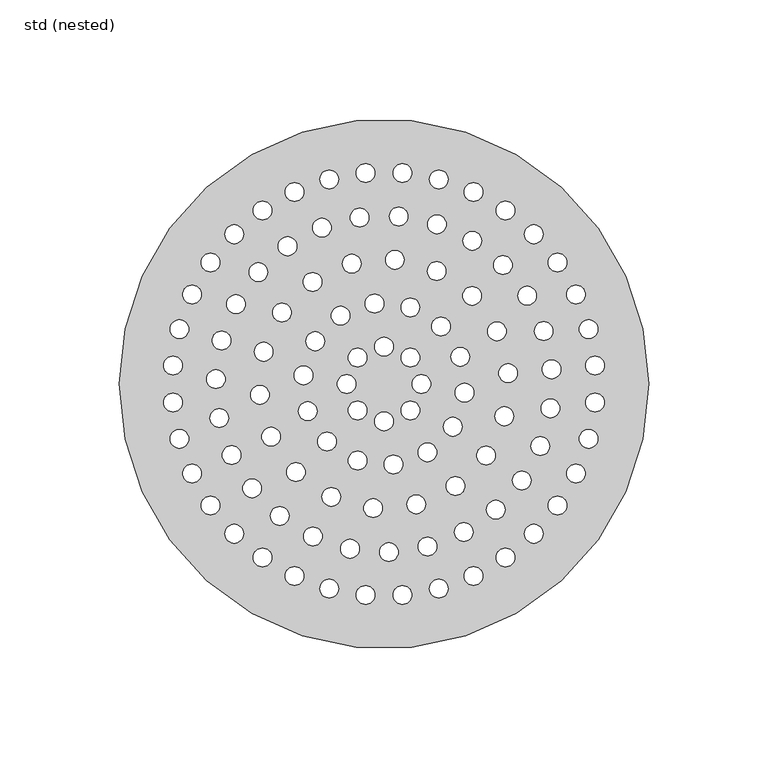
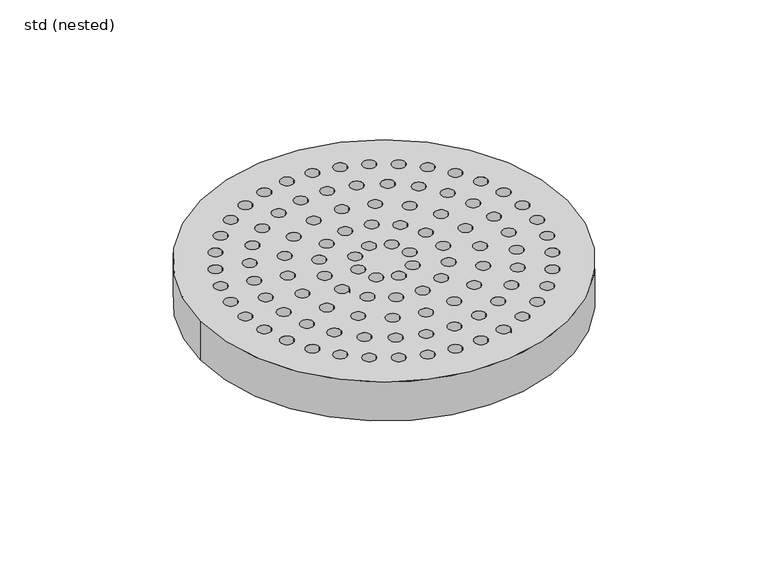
"""IFC4 building model written with IfcOpenShell, lengths in millimetres: sanitary terminal geometry, ZZZ_do not use_PF_ST_UN_round grating for vinyl top_ACO : std (nested)."""

import ifcopenshell
import ifcopenshell.guid

model = None  # the IFC model being written
_history = None  # IfcOwnerHistory: only IFC2X3 demands one
_inside = {}  # id of a spatial element -> (the spatial element, [elements in it])
_under = {}  # id of a project, library or spatial element -> (it, [spatial elements below it])
_declared = {}  # id of a project -> (the project, [libraries it declares])
_typed = {}  # id of a type object -> (the type object, [elements of that type])
_made_of = {}  # id of a material, layer set ... -> (it, [elements and type objects made of it])


def new_model(schema):
    """Start an empty IFC model of exactly this schema.

    Asked for "IFC4X3", IfcOpenShell would pick the latest addendum, in which some entities
    have other attributes; the version numbers below select the first issue.
    IFC2X3 requires an IfcOwnerHistory on every rooted entity: one is made here for all.
    """
    global model, _history
    if schema == "IFC4X3":
        model = ifcopenshell.file(schema_version=(4, 3, 0, 0))
    else:
        model = ifcopenshell.file(schema=schema)
    _inside.clear()
    _under.clear()
    _declared.clear()
    _typed.clear()
    _made_of.clear()
    _history = None
    if model.schema == "IFC2X3":
        org = make("IfcOrganization", Name="unknown")
        user = make(
            "IfcPersonAndOrganization",
            ThePerson=make("IfcPerson", FamilyName="unknown"),
            TheOrganization=org,
        )
        app = make(
            "IfcApplication",
            ApplicationDeveloper=org,
            Version="unknown",
            ApplicationFullName="unknown",
            ApplicationIdentifier="unknown",
        )
        _history = make(
            "IfcOwnerHistory",
            OwningUser=user,
            OwningApplication=app,
            ChangeAction="ADDED",
            CreationDate=0,
        )
    return model


def make(cls, **values):
    """One entity of the class cls with the attributes given. An attribute that is None is left unset."""
    return model.create_entity(
        cls, **{name: value for name, value in values.items() if value is not None}
    )


def rooted(cls, **values):
    """An entity with a GlobalId (a new one), such as an element, a storey or a relation."""
    return make(cls, GlobalId=ifcopenshell.guid.new(), OwnerHistory=_history, **values)


def si_unit(unit_type, name, prefix=None):
    """IfcSIUnit, for example si_unit("LENGTHUNIT", "METRE", prefix="MILLI")."""
    return make("IfcSIUnit", UnitType=unit_type, Prefix=prefix, Name=name)


def assignment(units):
    """IfcUnitAssignment: the units of a project."""
    return None if units is None else make("IfcUnitAssignment", Units=units)


def point(xyz):
    """IfcCartesianPoint."""
    return None if xyz is None else make("IfcCartesianPoint", Coordinates=xyz)


def direction(xyz):
    """IfcDirection."""
    return None if xyz is None else make("IfcDirection", DirectionRatios=xyz)


def frame(location, z_axis=None, x_axis=None):
    """IfcAxis2Placement3D, a coordinate frame: its origin and axes. An axis left out is left unset."""
    return make(
        "IfcAxis2Placement3D",
        Location=point(location),
        Axis=direction(z_axis),
        RefDirection=direction(x_axis),
    )


def frame_2d(location, x_axis=None):
    """IfcAxis2Placement2D, a coordinate frame in the plane: its origin and x axis."""
    return make(
        "IfcAxis2Placement2D", Location=point(location), RefDirection=direction(x_axis)
    )


def origin():
    """The frame at (0, 0, 0) with its axes left unset."""
    return frame((0.0, 0.0, 0.0))


def origin_2d():
    """The frame at (0, 0) in the plane with its x axis left unset."""
    return frame_2d((0.0, 0.0))


def place(relative_to, where):
    """IfcLocalPlacement: puts the frame where relative to a parent placement (None: the world)."""
    return make(
        "IfcLocalPlacement", PlacementRelTo=relative_to, RelativePlacement=where
    )


def context(
    kind, dimensions, precision=None, world=None, true_north=None, identifier=None
):
    """IfcGeometricRepresentationContext, for example the 3D "Model" context."""
    return make(
        "IfcGeometricRepresentationContext",
        ContextIdentifier=identifier,
        ContextType=kind,
        CoordinateSpaceDimension=dimensions,
        Precision=precision,
        WorldCoordinateSystem=world,
        TrueNorth=true_north,
    )


def project(units=None, contexts=None):
    """IfcProject with its units and contexts."""
    return rooted(
        "IfcProject",
        Name="project",
        RepresentationContexts=contexts,
        UnitsInContext=assignment(units),
    )


def spatial(cls, under=None, at=None, **own):
    """A site, building, storey or space (cls), placed at a placement, below another one or the project."""
    s = rooted(cls, ObjectPlacement=at, **own)
    if under is not None:
        _under.setdefault(under.id(), (under, []))[1].append(s)
    return s


def circle_curve(where, radius):
    """IfcCircle in the frame where."""
    return make("IfcCircle", Position=where, Radius=radius)


def trimmed(basis, trim1, trim2, sense, master):
    """IfcTrimmedCurve: the piece of a basis curve between two trims."""
    return make(
        "IfcTrimmedCurve",
        BasisCurve=basis,
        Trim1=trim1,
        Trim2=trim2,
        SenseAgreement=sense,
        MasterRepresentation=master,
    )


def segment(curve, same_sense, transition):
    """IfcCompositeCurveSegment."""
    return make(
        "IfcCompositeCurveSegment",
        Transition=transition,
        SameSense=same_sense,
        ParentCurve=curve,
    )


def composite_curve(segments, self_intersect=None):
    """IfcCompositeCurve: segments joined end to end."""
    return make("IfcCompositeCurve", Segments=segments, SelfIntersect=self_intersect)


def outline(outer, holes=None, kind="AREA"):
    """IfcArbitraryClosedProfileDef: a profile drawn as a closed curve; with holes, ...WithVoids."""
    if holes is None:
        return make("IfcArbitraryClosedProfileDef", ProfileType=kind, OuterCurve=outer)
    return make(
        "IfcArbitraryProfileDefWithVoids",
        ProfileType=kind,
        OuterCurve=outer,
        InnerCurves=holes,
    )


def extrude(swept, where, along, depth):
    """IfcExtrudedAreaSolid: the profile swept, set in the frame where, extruded along a direction by depth."""
    return make(
        "IfcExtrudedAreaSolid",
        SweptArea=swept,
        Position=where,
        ExtrudedDirection=direction(along),
        Depth=depth,
    )


def shape(context_of_items, identifier, shape_type, items):
    """IfcShapeRepresentation: the items that make up one representation, for example the "Body"."""
    return make(
        "IfcShapeRepresentation",
        ContextOfItems=context_of_items,
        RepresentationIdentifier=identifier,
        RepresentationType=shape_type,
        Items=items,
    )


def source(mapping_origin, context_of_items, identifier, shape_type, items):
    """IfcRepresentationMap: a shape defined once, which mapped items show again and again."""
    return make(
        "IfcRepresentationMap",
        MappingOrigin=mapping_origin,
        MappedRepresentation=shape(context_of_items, identifier, shape_type, items),
    )


def transform(
    local_origin,
    x_axis=None,
    y_axis=None,
    z_axis=None,
    scale=None,
    scale2=None,
    scale3=None,
    uniform=True,
):
    """IfcCartesianTransformationOperator3D, or its non-uniform kind. x_axis, y_axis, z_axis: its Axis1, 2, 3."""
    if uniform:
        return make(
            "IfcCartesianTransformationOperator3D",
            Axis1=direction(x_axis),
            Axis2=direction(y_axis),
            LocalOrigin=point(local_origin),
            Scale=scale,
            Axis3=direction(z_axis),
        )
    return make(
        "IfcCartesianTransformationOperator3DnonUniform",
        Axis1=direction(x_axis),
        Axis2=direction(y_axis),
        LocalOrigin=point(local_origin),
        Scale=scale,
        Axis3=direction(z_axis),
        Scale2=scale2,
        Scale3=scale3,
    )


def mapped(mapping_source, mapping_target):
    """IfcMappedItem: shows the shape of a source again, moved by a transform."""
    return make(
        "IfcMappedItem", MappingSource=mapping_source, MappingTarget=mapping_target
    )


def made_of(thing, what):
    """Note that an element or type object is made of a material, layer set ...; save() writes the relation."""
    if what is not None:
        _made_of.setdefault(what.id(), (what, []))[1].append(thing)
    return thing


def element(
    cls,
    number,
    at=None,
    inside=None,
    cuts=None,
    type_object=None,
    material=None,
    context=None,
    identifier="Body",
    shape_type=None,
    held_by="IfcProductDefinitionShape",
    body=None,
    shapes=None,
    **own,
):
    """One element of the class cls, such as IfcWall. Its Tag is "e" and its number.

    at: its placement. inside: the storey or other place that contains it. cuts: it is an
    opening in that element (IfcRelVoidsElement). A single representation is given by context,
    identifier, shape_type and body (its items); several are given by shapes. held_by: the class
    of the entity that holds the representations. save() writes the other relations.
    """
    e = rooted(cls, Tag="e%d" % number, ObjectPlacement=at, **own)
    if body is not None:
        shapes = [shape(context, identifier, shape_type, body)]
    if shapes is not None:
        e.Representation = make(held_by, Representations=shapes)
    if inside is not None:
        _inside.setdefault(inside.id(), (inside, []))[1].append(e)
    if cuts is not None:
        rooted(
            "IfcRelVoidsElement", RelatingBuildingElement=cuts, RelatedOpeningElement=e
        )
    if type_object is not None:
        _typed.setdefault(type_object.id(), (type_object, []))[1].append(e)
    return made_of(e, material)


def aggregate(whole, parts):
    """IfcRelAggregates: a whole, such as a stair, and the parts it consists of."""
    return rooted("IfcRelAggregates", RelatingObject=whole, RelatedObjects=parts)


def save(model, path):
    """Write the relations noted so far, then the file.

    IfcRelAggregates (storeys below a building ...), IfcRelContainedInSpatialStructure (elements
    in a storey), IfcRelDefinesByType, IfcRelAssociatesMaterial and IfcRelDeclares: one each for
    every whole, place, type object, material and project.
    """
    for whole, parts in _under.values():
        aggregate(whole, parts)
    for where, things in _inside.values():
        rooted(
            "IfcRelContainedInSpatialStructure",
            RelatedElements=things,
            RelatingStructure=where,
        )
    for kind, things in _typed.values():
        rooted("IfcRelDefinesByType", RelatedObjects=things, RelatingType=kind)
    for what, things in _made_of.values():
        rooted("IfcRelAssociatesMaterial", RelatedObjects=things, RelatingMaterial=what)
    for by, libraries in _declared.values():
        rooted("IfcRelDeclares", RelatingContext=by, RelatedDefinitions=libraries)
    model.write(path)


def std_nested_6499384f(model_context):
    return source(origin(), model_context, "Body", "SweptSolid", [
        extrude(outline(composite_curve([segment(trimmed(circle_curve(origin_2d(), 111.0), [point((-111.0, 0.0))], [point((111.0, 0.0))], False, "CARTESIAN"), True, "CONTINUOUS"), segment(trimmed(circle_curve(origin_2d(), 111.0), [point((111.0, 0.0))], [point((-111.0, 0.0))], False, "CARTESIAN"), True, "CONTINUOUS")], self_intersect=False), holes=[composite_curve([segment(trimmed(circle_curve(frame_2d((22.9831312, 85.7742134)), 3.9176471), [point((26.9007783, 85.7742134))], [point((19.0654841, 85.7742134))], True, "CARTESIAN"), True, "CONTINUOUS"), segment(trimmed(circle_curve(frame_2d((22.9831312, 85.7742134)), 3.9176471), [point((19.0654841, 85.7742134))], [point((26.9007783, 85.7742134))], True, "CARTESIAN"), True, "CONTINUOUS")], self_intersect=False), composite_curve([segment(trimmed(circle_curve(frame_2d((37.5285016, 80.4801315)), 3.9176471), [point((41.4461487, 80.4801315))], [point((33.6108546, 80.4801315))], True, "CARTESIAN"), True, "CONTINUOUS"), segment(trimmed(circle_curve(frame_2d((37.5285016, 80.4801315)), 3.9176471), [point((33.6108546, 80.4801315))], [point((41.4461487, 80.4801315))], True, "CARTESIAN"), True, "CONTINUOUS")], self_intersect=False), composite_curve([segment(trimmed(circle_curve(frame_2d((50.9335875, 72.7407015)), 3.9176471), [point((54.8512346, 72.7407015))], [point((47.0159405, 72.7407015))], True, "CARTESIAN"), True, "CONTINUOUS"), segment(trimmed(circle_curve(frame_2d((50.9335875, 72.7407015)), 3.9176471), [point((47.0159405, 72.7407015))], [point((54.8512346, 72.7407015))], True, "CARTESIAN"), True, "CONTINUOUS")], self_intersect=False), composite_curve([segment(trimmed(circle_curve(frame_2d((62.7910822, 62.7910822)), 3.9176471), [point((66.7087292, 62.7910822))], [point((58.8734351, 62.7910822))], True, "CARTESIAN"), True, "CONTINUOUS"), segment(trimmed(circle_curve(frame_2d((62.7910822, 62.7910822)), 3.9176471), [point((58.8734351, 62.7910822))], [point((66.7087292, 62.7910822))], True, "CARTESIAN"), True, "CONTINUOUS")], self_intersect=False), composite_curve([segment(trimmed(circle_curve(frame_2d((72.7407015, 50.9335875)), 3.9176471), [point((76.6583486, 50.9335875))], [point((68.8230545, 50.9335875))], True, "CARTESIAN"), True, "CONTINUOUS"), segment(trimmed(circle_curve(frame_2d((72.7407015, 50.9335875)), 3.9176471), [point((68.8230545, 50.9335875))], [point((76.6583486, 50.9335875))], True, "CARTESIAN"), True, "CONTINUOUS")], self_intersect=False), composite_curve([segment(trimmed(circle_curve(frame_2d((80.4801315, 37.5285016)), 3.9176471), [point((84.3977785, 37.5285016))], [point((76.5624844, 37.5285016))], True, "CARTESIAN"), True, "CONTINUOUS"), segment(trimmed(circle_curve(frame_2d((80.4801315, 37.5285016)), 3.9176471), [point((76.5624844, 37.5285016))], [point((84.3977785, 37.5285016))], True, "CARTESIAN"), True, "CONTINUOUS")], self_intersect=False), composite_curve([segment(trimmed(circle_curve(frame_2d((85.7742134, 22.9831312)), 3.9176471), [point((89.6918604, 22.9831312))], [point((81.8565663, 22.9831312))], True, "CARTESIAN"), True, "CONTINUOUS"), segment(trimmed(circle_curve(frame_2d((85.7742134, 22.9831312)), 3.9176471), [point((81.8565663, 22.9831312))], [point((89.6918604, 22.9831312))], True, "CARTESIAN"), True, "CONTINUOUS")], self_intersect=False), composite_curve([segment(trimmed(circle_curve(frame_2d((88.4620892, 7.73943)), 3.9176471), [point((92.3797362, 7.73943))], [point((84.5444421, 7.73943))], True, "CARTESIAN"), True, "CONTINUOUS"), segment(trimmed(circle_curve(frame_2d((88.4620892, 7.73943)), 3.9176471), [point((84.5444421, 7.73943))], [point((92.3797362, 7.73943))], True, "CARTESIAN"), True, "CONTINUOUS")], self_intersect=False), composite_curve([segment(trimmed(circle_curve(frame_2d((88.4620892, -7.73943)), 3.9176471), [point((92.3797362, -7.73943))], [point((84.5444421, -7.73943))], True, "CARTESIAN"), True, "CONTINUOUS"), segment(trimmed(circle_curve(frame_2d((88.4620892, -7.73943)), 3.9176471), [point((84.5444421, -7.73943))], [point((92.3797362, -7.73943))], True, "CARTESIAN"), True, "CONTINUOUS")], self_intersect=False), composite_curve([segment(trimmed(circle_curve(frame_2d((85.7742134, -22.9831312)), 3.9176471), [point((89.6918604, -22.9831312))], [point((81.8565663, -22.9831312))], True, "CARTESIAN"), True, "CONTINUOUS"), segment(trimmed(circle_curve(frame_2d((85.7742134, -22.9831312)), 3.9176471), [point((81.8565663, -22.9831312))], [point((89.6918604, -22.9831312))], True, "CARTESIAN"), True, "CONTINUOUS")], self_intersect=False), composite_curve([segment(trimmed(circle_curve(frame_2d((80.4801315, -37.5285016)), 3.9176471), [point((84.3977785, -37.5285016))], [point((76.5624844, -37.5285016))], True, "CARTESIAN"), True, "CONTINUOUS"), segment(trimmed(circle_curve(frame_2d((80.4801315, -37.5285016)), 3.9176471), [point((76.5624844, -37.5285016))], [point((84.3977785, -37.5285016))], True, "CARTESIAN"), True, "CONTINUOUS")], self_intersect=False), composite_curve([segment(trimmed(circle_curve(frame_2d((72.7407015, -50.9335875)), 3.9176471), [point((76.6583486, -50.9335875))], [point((68.8230545, -50.9335875))], True, "CARTESIAN"), True, "CONTINUOUS"), segment(trimmed(circle_curve(frame_2d((72.7407015, -50.9335875)), 3.9176471), [point((68.8230545, -50.9335875))], [point((76.6583486, -50.9335875))], True, "CARTESIAN"), True, "CONTINUOUS")], self_intersect=False), composite_curve([segment(trimmed(circle_curve(frame_2d((62.7910822, -62.7910822)), 3.9176471), [point((66.7087292, -62.7910822))], [point((58.8734351, -62.7910822))], True, "CARTESIAN"), True, "CONTINUOUS"), segment(trimmed(circle_curve(frame_2d((62.7910822, -62.7910822)), 3.9176471), [point((58.8734351, -62.7910822))], [point((66.7087292, -62.7910822))], True, "CARTESIAN"), True, "CONTINUOUS")], self_intersect=False), composite_curve([segment(trimmed(circle_curve(frame_2d((50.9335875, -72.7407015)), 3.9176471), [point((54.8512346, -72.7407015))], [point((47.0159405, -72.7407015))], True, "CARTESIAN"), True, "CONTINUOUS"), segment(trimmed(circle_curve(frame_2d((50.9335875, -72.7407015)), 3.9176471), [point((47.0159405, -72.7407015))], [point((54.8512346, -72.7407015))], True, "CARTESIAN"), True, "CONTINUOUS")], self_intersect=False), composite_curve([segment(trimmed(circle_curve(frame_2d((37.5285016, -80.4801315)), 3.9176471), [point((41.4461487, -80.4801315))], [point((33.6108546, -80.4801315))], True, "CARTESIAN"), True, "CONTINUOUS"), segment(trimmed(circle_curve(frame_2d((37.5285016, -80.4801315)), 3.9176471), [point((33.6108546, -80.4801315))], [point((41.4461487, -80.4801315))], True, "CARTESIAN"), True, "CONTINUOUS")], self_intersect=False), composite_curve([segment(trimmed(circle_curve(frame_2d((22.9831312, -85.7742134)), 3.9176471), [point((26.9007783, -85.7742134))], [point((19.0654841, -85.7742134))], True, "CARTESIAN"), True, "CONTINUOUS"), segment(trimmed(circle_curve(frame_2d((22.9831312, -85.7742134)), 3.9176471), [point((19.0654841, -85.7742134))], [point((26.9007783, -85.7742134))], True, "CARTESIAN"), True, "CONTINUOUS")], self_intersect=False), composite_curve([segment(trimmed(circle_curve(frame_2d((7.73943, -88.4620892)), 3.9176471), [point((11.657077, -88.4620892))], [point((3.8217829, -88.4620892))], True, "CARTESIAN"), True, "CONTINUOUS"), segment(trimmed(circle_curve(frame_2d((7.73943, -88.4620892)), 3.9176471), [point((3.8217829, -88.4620892))], [point((11.657077, -88.4620892))], True, "CARTESIAN"), True, "CONTINUOUS")], self_intersect=False), composite_curve([segment(trimmed(circle_curve(frame_2d((-7.73943, -88.4620892)), 3.9176471), [point((-3.8217829, -88.4620892))], [point((-11.657077, -88.4620892))], True, "CARTESIAN"), True, "CONTINUOUS"), segment(trimmed(circle_curve(frame_2d((-7.73943, -88.4620892)), 3.9176471), [point((-11.657077, -88.4620892))], [point((-3.8217829, -88.4620892))], True, "CARTESIAN"), True, "CONTINUOUS")], self_intersect=False), composite_curve([segment(trimmed(circle_curve(frame_2d((-22.9831312, -85.7742134)), 3.9176471), [point((-19.0654841, -85.7742134))], [point((-26.9007783, -85.7742134))], True, "CARTESIAN"), True, "CONTINUOUS"), segment(trimmed(circle_curve(frame_2d((-22.9831312, -85.7742134)), 3.9176471), [point((-26.9007783, -85.7742134))], [point((-19.0654841, -85.7742134))], True, "CARTESIAN"), True, "CONTINUOUS")], self_intersect=False), composite_curve([segment(trimmed(circle_curve(frame_2d((-37.5285016, -80.4801315)), 3.9176471), [point((-33.6108546, -80.4801315))], [point((-41.4461487, -80.4801315))], True, "CARTESIAN"), True, "CONTINUOUS"), segment(trimmed(circle_curve(frame_2d((-37.5285016, -80.4801315)), 3.9176471), [point((-41.4461487, -80.4801315))], [point((-33.6108546, -80.4801315))], True, "CARTESIAN"), True, "CONTINUOUS")], self_intersect=False), composite_curve([segment(trimmed(circle_curve(frame_2d((-50.9335875, -72.7407015)), 3.9176471), [point((-47.0159405, -72.7407015))], [point((-54.8512346, -72.7407015))], True, "CARTESIAN"), True, "CONTINUOUS"), segment(trimmed(circle_curve(frame_2d((-50.9335875, -72.7407015)), 3.9176471), [point((-54.8512346, -72.7407015))], [point((-47.0159405, -72.7407015))], True, "CARTESIAN"), True, "CONTINUOUS")], self_intersect=False), composite_curve([segment(trimmed(circle_curve(frame_2d((-62.7910822, -62.7910822)), 3.9176471), [point((-58.8734351, -62.7910822))], [point((-66.7087292, -62.7910822))], True, "CARTESIAN"), True, "CONTINUOUS"), segment(trimmed(circle_curve(frame_2d((-62.7910822, -62.7910822)), 3.9176471), [point((-66.7087292, -62.7910822))], [point((-58.8734351, -62.7910822))], True, "CARTESIAN"), True, "CONTINUOUS")], self_intersect=False), composite_curve([segment(trimmed(circle_curve(frame_2d((-72.7407015, -50.9335875)), 3.9176471), [point((-68.8230545, -50.9335875))], [point((-76.6583486, -50.9335875))], True, "CARTESIAN"), True, "CONTINUOUS"), segment(trimmed(circle_curve(frame_2d((-72.7407015, -50.9335875)), 3.9176471), [point((-76.6583486, -50.9335875))], [point((-68.8230545, -50.9335875))], True, "CARTESIAN"), True, "CONTINUOUS")], self_intersect=False), composite_curve([segment(trimmed(circle_curve(frame_2d((-80.4801315, -37.5285016)), 3.9176471), [point((-76.5624844, -37.5285016))], [point((-84.3977785, -37.5285016))], True, "CARTESIAN"), True, "CONTINUOUS"), segment(trimmed(circle_curve(frame_2d((-80.4801315, -37.5285016)), 3.9176471), [point((-84.3977785, -37.5285016))], [point((-76.5624844, -37.5285016))], True, "CARTESIAN"), True, "CONTINUOUS")], self_intersect=False), composite_curve([segment(trimmed(circle_curve(frame_2d((-85.7742134, -22.9831312)), 3.9176471), [point((-81.8565663, -22.9831312))], [point((-89.6918604, -22.9831312))], True, "CARTESIAN"), True, "CONTINUOUS"), segment(trimmed(circle_curve(frame_2d((-85.7742134, -22.9831312)), 3.9176471), [point((-89.6918604, -22.9831312))], [point((-81.8565663, -22.9831312))], True, "CARTESIAN"), True, "CONTINUOUS")], self_intersect=False), composite_curve([segment(trimmed(circle_curve(frame_2d((-88.4620892, -7.73943)), 3.9176471), [point((-84.5444421, -7.73943))], [point((-92.3797362, -7.73943))], True, "CARTESIAN"), True, "CONTINUOUS"), segment(trimmed(circle_curve(frame_2d((-88.4620892, -7.73943)), 3.9176471), [point((-92.3797362, -7.73943))], [point((-84.5444421, -7.73943))], True, "CARTESIAN"), True, "CONTINUOUS")], self_intersect=False), composite_curve([segment(trimmed(circle_curve(frame_2d((-88.4620892, 7.73943)), 3.9176471), [point((-84.5444421, 7.73943))], [point((-92.3797362, 7.73943))], True, "CARTESIAN"), True, "CONTINUOUS"), segment(trimmed(circle_curve(frame_2d((-88.4620892, 7.73943)), 3.9176471), [point((-92.3797362, 7.73943))], [point((-84.5444421, 7.73943))], True, "CARTESIAN"), True, "CONTINUOUS")], self_intersect=False), composite_curve([segment(trimmed(circle_curve(frame_2d((-85.7742134, 22.9831312)), 3.9176471), [point((-81.8565663, 22.9831312))], [point((-89.6918604, 22.9831312))], True, "CARTESIAN"), True, "CONTINUOUS"), segment(trimmed(circle_curve(frame_2d((-85.7742134, 22.9831312)), 3.9176471), [point((-89.6918604, 22.9831312))], [point((-81.8565663, 22.9831312))], True, "CARTESIAN"), True, "CONTINUOUS")], self_intersect=False), composite_curve([segment(trimmed(circle_curve(frame_2d((-80.4801315, 37.5285016)), 3.9176471), [point((-76.5624844, 37.5285016))], [point((-84.3977785, 37.5285016))], True, "CARTESIAN"), True, "CONTINUOUS"), segment(trimmed(circle_curve(frame_2d((-80.4801315, 37.5285016)), 3.9176471), [point((-84.3977785, 37.5285016))], [point((-76.5624844, 37.5285016))], True, "CARTESIAN"), True, "CONTINUOUS")], self_intersect=False), composite_curve([segment(trimmed(circle_curve(frame_2d((-72.7407015, 50.9335875)), 3.9176471), [point((-68.8230545, 50.9335875))], [point((-76.6583486, 50.9335875))], True, "CARTESIAN"), True, "CONTINUOUS"), segment(trimmed(circle_curve(frame_2d((-72.7407015, 50.9335875)), 3.9176471), [point((-76.6583486, 50.9335875))], [point((-68.8230545, 50.9335875))], True, "CARTESIAN"), True, "CONTINUOUS")], self_intersect=False), composite_curve([segment(trimmed(circle_curve(frame_2d((-62.7910822, 62.7910822)), 3.9176471), [point((-58.8734351, 62.7910822))], [point((-66.7087292, 62.7910822))], True, "CARTESIAN"), True, "CONTINUOUS"), segment(trimmed(circle_curve(frame_2d((-62.7910822, 62.7910822)), 3.9176471), [point((-66.7087292, 62.7910822))], [point((-58.8734351, 62.7910822))], True, "CARTESIAN"), True, "CONTINUOUS")], self_intersect=False), composite_curve([segment(trimmed(circle_curve(frame_2d((-50.9335875, 72.7407015)), 3.9176471), [point((-47.0159405, 72.7407015))], [point((-54.8512346, 72.7407015))], True, "CARTESIAN"), True, "CONTINUOUS"), segment(trimmed(circle_curve(frame_2d((-50.9335875, 72.7407015)), 3.9176471), [point((-54.8512346, 72.7407015))], [point((-47.0159405, 72.7407015))], True, "CARTESIAN"), True, "CONTINUOUS")], self_intersect=False), composite_curve([segment(trimmed(circle_curve(frame_2d((-37.5285016, 80.4801315)), 3.9176471), [point((-33.6108546, 80.4801315))], [point((-41.4461487, 80.4801315))], True, "CARTESIAN"), True, "CONTINUOUS"), segment(trimmed(circle_curve(frame_2d((-37.5285016, 80.4801315)), 3.9176471), [point((-41.4461487, 80.4801315))], [point((-33.6108546, 80.4801315))], True, "CARTESIAN"), True, "CONTINUOUS")], self_intersect=False), composite_curve([segment(trimmed(circle_curve(frame_2d((-22.9831312, 85.7742134)), 3.9176471), [point((-19.0654841, 85.7742134))], [point((-26.9007783, 85.7742134))], True, "CARTESIAN"), True, "CONTINUOUS"), segment(trimmed(circle_curve(frame_2d((-22.9831312, 85.7742134)), 3.9176471), [point((-26.9007783, 85.7742134))], [point((-19.0654841, 85.7742134))], True, "CARTESIAN"), True, "CONTINUOUS")], self_intersect=False), composite_curve([segment(trimmed(circle_curve(frame_2d((-7.73943, 88.4620892)), 3.9176471), [point((-3.8217829, 88.4620892))], [point((-11.657077, 88.4620892))], True, "CARTESIAN"), True, "CONTINUOUS"), segment(trimmed(circle_curve(frame_2d((-7.73943, 88.4620892)), 3.9176471), [point((-11.657077, 88.4620892))], [point((-3.8217829, 88.4620892))], True, "CARTESIAN"), True, "CONTINUOUS")], self_intersect=False), composite_curve([segment(trimmed(circle_curve(frame_2d((22.1809561, 66.9383577)), 3.9176471), [point((26.0986032, 66.9383577))], [point((18.263309, 66.9383577))], True, "CARTESIAN"), True, "CONTINUOUS"), segment(trimmed(circle_curve(frame_2d((22.1809561, 66.9383577)), 3.9176471), [point((18.263309, 66.9383577))], [point((26.0986032, 66.9383577))], True, "CARTESIAN"), True, "CONTINUOUS")], self_intersect=False), composite_curve([segment(trimmed(circle_curve(frame_2d((37.0201132, 60.0187451)), 3.9176471), [point((40.9377603, 60.0187451))], [point((33.1024661, 60.0187451))], True, "CARTESIAN"), True, "CONTINUOUS"), segment(trimmed(circle_curve(frame_2d((37.0201132, 60.0187451)), 3.9176471), [point((33.1024661, 60.0187451))], [point((40.9377603, 60.0187451))], True, "CARTESIAN"), True, "CONTINUOUS")], self_intersect=False), composite_curve([segment(trimmed(circle_curve(frame_2d((49.8635064, 49.8635064)), 3.9176471), [point((53.7811535, 49.8635064))], [point((45.9458594, 49.8635064))], True, "CARTESIAN"), True, "CONTINUOUS"), segment(trimmed(circle_curve(frame_2d((49.8635064, 49.8635064)), 3.9176471), [point((45.9458594, 49.8635064))], [point((53.7811535, 49.8635064))], True, "CARTESIAN"), True, "CONTINUOUS")], self_intersect=False), composite_curve([segment(trimmed(circle_curve(frame_2d((60.0187451, 37.0201132)), 3.9176471), [point((63.9363922, 37.0201132))], [point((56.1010981, 37.0201132))], True, "CARTESIAN"), True, "CONTINUOUS"), segment(trimmed(circle_curve(frame_2d((60.0187451, 37.0201132)), 3.9176471), [point((56.1010981, 37.0201132))], [point((63.9363922, 37.0201132))], True, "CARTESIAN"), True, "CONTINUOUS")], self_intersect=False), composite_curve([segment(trimmed(circle_curve(frame_2d((66.9383577, 22.1809561)), 3.9176471), [point((70.8560048, 22.1809561))], [point((63.0207107, 22.1809561))], True, "CARTESIAN"), True, "CONTINUOUS"), segment(trimmed(circle_curve(frame_2d((66.9383577, 22.1809561)), 3.9176471), [point((63.0207107, 22.1809561))], [point((70.8560048, 22.1809561))], True, "CARTESIAN"), True, "CONTINUOUS")], self_intersect=False), composite_curve([segment(trimmed(circle_curve(frame_2d((70.2493061, 6.1460179)), 3.9176471), [point((74.1669532, 6.1460179))], [point((66.3316591, 6.1460179))], True, "CARTESIAN"), True, "CONTINUOUS"), segment(trimmed(circle_curve(frame_2d((70.2493061, 6.1460179)), 3.9176471), [point((66.3316591, 6.1460179))], [point((74.1669532, 6.1460179))], True, "CARTESIAN"), True, "CONTINUOUS")], self_intersect=False), composite_curve([segment(trimmed(circle_curve(frame_2d((69.7730963, -10.2202537)), 3.9176471), [point((73.6907433, -10.2202537))], [point((65.8554492, -10.2202537))], True, "CARTESIAN"), True, "CONTINUOUS"), segment(trimmed(circle_curve(frame_2d((69.7730963, -10.2202537)), 3.9176471), [point((65.8554492, -10.2202537))], [point((73.6907433, -10.2202537))], True, "CARTESIAN"), True, "CONTINUOUS")], self_intersect=False), composite_curve([segment(trimmed(circle_curve(frame_2d((65.5354007, -26.0355488)), 3.9176471), [point((69.4530478, -26.0355488))], [point((61.6177536, -26.0355488))], True, "CARTESIAN"), True, "CONTINUOUS"), segment(trimmed(circle_curve(frame_2d((65.5354007, -26.0355488)), 3.9176471), [point((61.6177536, -26.0355488))], [point((69.4530478, -26.0355488))], True, "CARTESIAN"), True, "CONTINUOUS")], self_intersect=False), composite_curve([segment(trimmed(circle_curve(frame_2d((57.7646747, -40.4472607)), 3.9176471), [point((61.6823218, -40.4472607))], [point((53.8470277, -40.4472607))], True, "CARTESIAN"), True, "CONTINUOUS"), segment(trimmed(circle_curve(frame_2d((57.7646747, -40.4472607)), 3.9176471), [point((53.8470277, -40.4472607))], [point((61.6823218, -40.4472607))], True, "CARTESIAN"), True, "CONTINUOUS")], self_intersect=False), composite_curve([segment(trimmed(circle_curve(frame_2d((46.8798402, -52.6784503)), 3.9176471), [point((50.7974873, -52.6784503))], [point((42.9621932, -52.6784503))], True, "CARTESIAN"), True, "CONTINUOUS"), segment(trimmed(circle_curve(frame_2d((46.8798402, -52.6784503)), 3.9176471), [point((42.9621932, -52.6784503))], [point((50.7974873, -52.6784503))], True, "CARTESIAN"), True, "CONTINUOUS")], self_intersect=False), composite_curve([segment(trimmed(circle_curve(frame_2d((33.4677014, -62.069731)), 3.9176471), [point((37.3853484, -62.069731))], [point((29.5500543, -62.069731))], True, "CARTESIAN"), True, "CONTINUOUS"), segment(trimmed(circle_curve(frame_2d((33.4677014, -62.069731)), 3.9176471), [point((29.5500543, -62.069731))], [point((37.3853484, -62.069731))], True, "CARTESIAN"), True, "CONTINUOUS")], self_intersect=False), composite_curve([segment(trimmed(circle_curve(frame_2d((18.2513101, -68.1148165)), 3.9176471), [point((22.1689571, -68.1148165))], [point((14.333663, -68.1148165))], True, "CARTESIAN"), True, "CONTINUOUS"), segment(trimmed(circle_curve(frame_2d((18.2513101, -68.1148165)), 3.9176471), [point((14.333663, -68.1148165))], [point((22.1689571, -68.1148165))], True, "CARTESIAN"), True, "CONTINUOUS")], self_intersect=False), composite_curve([segment(trimmed(circle_curve(frame_2d((2.0509859, -70.4878146)), 3.9176471), [point((5.968633, -70.4878146))], [point((-1.8666611, -70.4878146))], True, "CARTESIAN"), True, "CONTINUOUS"), segment(trimmed(circle_curve(frame_2d((2.0509859, -70.4878146)), 3.9176471), [point((-1.8666611, -70.4878146))], [point((5.968633, -70.4878146))], True, "CARTESIAN"), True, "CONTINUOUS")], self_intersect=False), composite_curve([segment(trimmed(circle_curve(frame_2d((-14.2599074, -69.0607963)), 3.9176471), [point((-10.3422603, -69.0607963))], [point((-18.1775545, -69.0607963))], True, "CARTESIAN"), True, "CONTINUOUS"), segment(trimmed(circle_curve(frame_2d((-14.2599074, -69.0607963)), 3.9176471), [point((-18.1775545, -69.0607963))], [point((-10.3422603, -69.0607963))], True, "CARTESIAN"), True, "CONTINUOUS")], self_intersect=False), composite_curve([segment(trimmed(circle_curve(frame_2d((-29.8020454, -63.9106927)), 3.9176471), [point((-25.8843984, -63.9106927))], [point((-33.7196925, -63.9106927))], True, "CARTESIAN"), True, "CONTINUOUS"), segment(trimmed(circle_curve(frame_2d((-29.8020454, -63.9106927)), 3.9176471), [point((-33.7196925, -63.9106927))], [point((-25.8843984, -63.9106927))], True, "CARTESIAN"), True, "CONTINUOUS")], self_intersect=False), composite_curve([segment(trimmed(circle_curve(frame_2d((-43.7375475, -55.315147)), 3.9176471), [point((-39.8199004, -55.315147))], [point((-47.6551945, -55.315147))], True, "CARTESIAN"), True, "CONTINUOUS"), segment(trimmed(circle_curve(frame_2d((-43.7375475, -55.315147)), 3.9176471), [point((-47.6551945, -55.315147))], [point((-39.8199004, -55.315147))], True, "CARTESIAN"), True, "CONTINUOUS")], self_intersect=False), composite_curve([segment(trimmed(circle_curve(frame_2d((-55.315147, -43.7375475)), 3.9176471), [point((-51.3974999, -43.7375475))], [point((-59.2327941, -43.7375475))], True, "CARTESIAN"), True, "CONTINUOUS"), segment(trimmed(circle_curve(frame_2d((-55.315147, -43.7375475)), 3.9176471), [point((-59.2327941, -43.7375475))], [point((-51.3974999, -43.7375475))], True, "CARTESIAN"), True, "CONTINUOUS")], self_intersect=False), composite_curve([segment(trimmed(circle_curve(frame_2d((-63.9106927, -29.8020454)), 3.9176471), [point((-59.9930456, -29.8020454))], [point((-67.8283397, -29.8020454))], True, "CARTESIAN"), True, "CONTINUOUS"), segment(trimmed(circle_curve(frame_2d((-63.9106927, -29.8020454)), 3.9176471), [point((-67.8283397, -29.8020454))], [point((-59.9930456, -29.8020454))], True, "CARTESIAN"), True, "CONTINUOUS")], self_intersect=False), composite_curve([segment(trimmed(circle_curve(frame_2d((-69.0607963, -14.2599074)), 3.9176471), [point((-65.1431493, -14.2599074))], [point((-72.9784434, -14.2599074))], True, "CARTESIAN"), True, "CONTINUOUS"), segment(trimmed(circle_curve(frame_2d((-69.0607963, -14.2599074)), 3.9176471), [point((-72.9784434, -14.2599074))], [point((-65.1431493, -14.2599074))], True, "CARTESIAN"), True, "CONTINUOUS")], self_intersect=False), composite_curve([segment(trimmed(circle_curve(frame_2d((-70.4878146, 2.0509859)), 3.9176471), [point((-66.5701675, 2.0509859))], [point((-74.4054616, 2.0509859))], True, "CARTESIAN"), True, "CONTINUOUS"), segment(trimmed(circle_curve(frame_2d((-70.4878146, 2.0509859)), 3.9176471), [point((-74.4054616, 2.0509859))], [point((-66.5701675, 2.0509859))], True, "CARTESIAN"), True, "CONTINUOUS")], self_intersect=False), composite_curve([segment(trimmed(circle_curve(frame_2d((-68.1148165, 18.2513101)), 3.9176471), [point((-64.1971694, 18.2513101))], [point((-72.0324636, 18.2513101))], True, "CARTESIAN"), True, "CONTINUOUS"), segment(trimmed(circle_curve(frame_2d((-68.1148165, 18.2513101)), 3.9176471), [point((-72.0324636, 18.2513101))], [point((-64.1971694, 18.2513101))], True, "CARTESIAN"), True, "CONTINUOUS")], self_intersect=False), composite_curve([segment(trimmed(circle_curve(frame_2d((-62.069731, 33.4677014)), 3.9176471), [point((-58.152084, 33.4677014))], [point((-65.9873781, 33.4677014))], True, "CARTESIAN"), True, "CONTINUOUS"), segment(trimmed(circle_curve(frame_2d((-62.069731, 33.4677014)), 3.9176471), [point((-65.9873781, 33.4677014))], [point((-58.152084, 33.4677014))], True, "CARTESIAN"), True, "CONTINUOUS")], self_intersect=False), composite_curve([segment(trimmed(circle_curve(frame_2d((-52.6784503, 46.8798402)), 3.9176471), [point((-48.7608033, 46.8798402))], [point((-56.5960974, 46.8798402))], True, "CARTESIAN"), True, "CONTINUOUS"), segment(trimmed(circle_curve(frame_2d((-52.6784503, 46.8798402)), 3.9176471), [point((-56.5960974, 46.8798402))], [point((-48.7608033, 46.8798402))], True, "CARTESIAN"), True, "CONTINUOUS")], self_intersect=False), composite_curve([segment(trimmed(circle_curve(frame_2d((-40.4472607, 57.7646747)), 3.9176471), [point((-36.5296136, 57.7646747))], [point((-44.3649078, 57.7646747))], True, "CARTESIAN"), True, "CONTINUOUS"), segment(trimmed(circle_curve(frame_2d((-40.4472607, 57.7646747)), 3.9176471), [point((-44.3649078, 57.7646747))], [point((-36.5296136, 57.7646747))], True, "CARTESIAN"), True, "CONTINUOUS")], self_intersect=False), composite_curve([segment(trimmed(circle_curve(frame_2d((-26.0355488, 65.5354007)), 3.9176471), [point((-22.1179017, 65.5354007))], [point((-29.9531958, 65.5354007))], True, "CARTESIAN"), True, "CONTINUOUS"), segment(trimmed(circle_curve(frame_2d((-26.0355488, 65.5354007)), 3.9176471), [point((-29.9531958, 65.5354007))], [point((-22.1179017, 65.5354007))], True, "CARTESIAN"), True, "CONTINUOUS")], self_intersect=False), composite_curve([segment(trimmed(circle_curve(frame_2d((-10.2202537, 69.7730963)), 3.9176471), [point((-6.3026066, 69.7730963))], [point((-14.1379008, 69.7730963))], True, "CARTESIAN"), True, "CONTINUOUS"), segment(trimmed(circle_curve(frame_2d((-10.2202537, 69.7730963)), 3.9176471), [point((-14.1379008, 69.7730963))], [point((-6.3026066, 69.7730963))], True, "CARTESIAN"), True, "CONTINUOUS")], self_intersect=False), composite_curve([segment(trimmed(circle_curve(frame_2d((7.73943, 88.4620892)), 3.9176471), [point((11.657077, 88.4620892))], [point((3.8217829, 88.4620892))], True, "CARTESIAN"), True, "CONTINUOUS"), segment(trimmed(circle_curve(frame_2d((7.73943, 88.4620892)), 3.9176471), [point((3.8217829, 88.4620892))], [point((11.657077, 88.4620892))], True, "CARTESIAN"), True, "CONTINUOUS")], self_intersect=False), composite_curve([segment(trimmed(circle_curve(frame_2d((6.1460179, 70.2493061)), 3.9176471), [point((10.063665, 70.2493061))], [point((2.2283708, 70.2493061))], True, "CARTESIAN"), True, "CONTINUOUS"), segment(trimmed(circle_curve(frame_2d((6.1460179, 70.2493061)), 3.9176471), [point((2.2283708, 70.2493061))], [point((10.063665, 70.2493061))], True, "CARTESIAN"), True, "CONTINUOUS")], self_intersect=False), composite_curve([segment(trimmed(circle_curve(frame_2d((22.0755892, 47.3412538)), 3.9176471), [point((25.9932363, 47.3412538))], [point((18.1579421, 47.3412538))], True, "CARTESIAN"), True, "CONTINUOUS"), segment(trimmed(circle_curve(frame_2d((22.0755892, 47.3412538)), 3.9176471), [point((18.1579421, 47.3412538))], [point((25.9932363, 47.3412538))], True, "CARTESIAN"), True, "CONTINUOUS")], self_intersect=False), composite_curve([segment(trimmed(circle_curve(frame_2d((36.9359307, 36.9359307)), 3.9176471), [point((40.8535777, 36.9359307))], [point((33.0182836, 36.9359307))], True, "CARTESIAN"), True, "CONTINUOUS"), segment(trimmed(circle_curve(frame_2d((36.9359307, 36.9359307)), 3.9176471), [point((33.0182836, 36.9359307))], [point((40.8535777, 36.9359307))], True, "CARTESIAN"), True, "CONTINUOUS")], self_intersect=False), composite_curve([segment(trimmed(circle_curve(frame_2d((47.3412538, 22.0755892)), 3.9176471), [point((51.2589009, 22.0755892))], [point((43.4236068, 22.0755892))], True, "CARTESIAN"), True, "CONTINUOUS"), segment(trimmed(circle_curve(frame_2d((47.3412538, 22.0755892)), 3.9176471), [point((43.4236068, 22.0755892))], [point((51.2589009, 22.0755892))], True, "CARTESIAN"), True, "CONTINUOUS")], self_intersect=False), composite_curve([segment(trimmed(circle_curve(frame_2d((52.0365231, 4.5526059)), 3.9176471), [point((55.9541701, 4.5526059))], [point((48.118876, 4.5526059))], True, "CARTESIAN"), True, "CONTINUOUS"), segment(trimmed(circle_curve(frame_2d((52.0365231, 4.5526059)), 3.9176471), [point((48.118876, 4.5526059))], [point((55.9541701, 4.5526059))], True, "CARTESIAN"), True, "CONTINUOUS")], self_intersect=False), composite_curve([segment(trimmed(circle_curve(frame_2d((50.4554196, -13.5194889)), 3.9176471), [point((54.3730667, -13.5194889))], [point((46.5377726, -13.5194889))], True, "CARTESIAN"), True, "CONTINUOUS"), segment(trimmed(circle_curve(frame_2d((50.4554196, -13.5194889)), 3.9176471), [point((46.5377726, -13.5194889))], [point((54.3730667, -13.5194889))], True, "CARTESIAN"), True, "CONTINUOUS")], self_intersect=False), composite_curve([segment(trimmed(circle_curve(frame_2d((42.788648, -29.9609339)), 3.9176471), [point((46.706295, -29.9609339))], [point((38.8710009, -29.9609339))], True, "CARTESIAN"), True, "CONTINUOUS"), segment(trimmed(circle_curve(frame_2d((42.788648, -29.9609339)), 3.9176471), [point((38.8710009, -29.9609339))], [point((46.706295, -29.9609339))], True, "CARTESIAN"), True, "CONTINUOUS")], self_intersect=False), composite_curve([segment(trimmed(circle_curve(frame_2d((29.9609339, -42.788648)), 3.9176471), [point((33.8785809, -42.788648))], [point((26.0432868, -42.788648))], True, "CARTESIAN"), True, "CONTINUOUS"), segment(trimmed(circle_curve(frame_2d((29.9609339, -42.788648)), 3.9176471), [point((26.0432868, -42.788648))], [point((33.8785809, -42.788648))], True, "CARTESIAN"), True, "CONTINUOUS")], self_intersect=False), composite_curve([segment(trimmed(circle_curve(frame_2d((13.5194889, -50.4554196)), 3.9176471), [point((17.437136, -50.4554196))], [point((9.6018419, -50.4554196))], True, "CARTESIAN"), True, "CONTINUOUS"), segment(trimmed(circle_curve(frame_2d((13.5194889, -50.4554196)), 3.9176471), [point((9.6018419, -50.4554196))], [point((17.437136, -50.4554196))], True, "CARTESIAN"), True, "CONTINUOUS")], self_intersect=False), composite_curve([segment(trimmed(circle_curve(frame_2d((-4.5526059, -52.0365231)), 3.9176471), [point((-0.6349588, -52.0365231))], [point((-8.4702529, -52.0365231))], True, "CARTESIAN"), True, "CONTINUOUS"), segment(trimmed(circle_curve(frame_2d((-4.5526059, -52.0365231)), 3.9176471), [point((-8.4702529, -52.0365231))], [point((-0.6349588, -52.0365231))], True, "CARTESIAN"), True, "CONTINUOUS")], self_intersect=False), composite_curve([segment(trimmed(circle_curve(frame_2d((-22.0755892, -47.3412538)), 3.9176471), [point((-18.1579421, -47.3412538))], [point((-25.9932363, -47.3412538))], True, "CARTESIAN"), True, "CONTINUOUS"), segment(trimmed(circle_curve(frame_2d((-22.0755892, -47.3412538)), 3.9176471), [point((-25.9932363, -47.3412538))], [point((-18.1579421, -47.3412538))], True, "CARTESIAN"), True, "CONTINUOUS")], self_intersect=False), composite_curve([segment(trimmed(circle_curve(frame_2d((-36.9359307, -36.9359307)), 3.9176471), [point((-33.0182836, -36.9359307))], [point((-40.8535777, -36.9359307))], True, "CARTESIAN"), True, "CONTINUOUS"), segment(trimmed(circle_curve(frame_2d((-36.9359307, -36.9359307)), 3.9176471), [point((-40.8535777, -36.9359307))], [point((-33.0182836, -36.9359307))], True, "CARTESIAN"), True, "CONTINUOUS")], self_intersect=False), composite_curve([segment(trimmed(circle_curve(frame_2d((-47.3412538, -22.0755892)), 3.9176471), [point((-43.4236068, -22.0755892))], [point((-51.2589009, -22.0755892))], True, "CARTESIAN"), True, "CONTINUOUS"), segment(trimmed(circle_curve(frame_2d((-47.3412538, -22.0755892)), 3.9176471), [point((-51.2589009, -22.0755892))], [point((-43.4236068, -22.0755892))], True, "CARTESIAN"), True, "CONTINUOUS")], self_intersect=False), composite_curve([segment(trimmed(circle_curve(frame_2d((-52.0365231, -4.5526059)), 3.9176471), [point((-48.118876, -4.5526059))], [point((-55.9541701, -4.5526059))], True, "CARTESIAN"), True, "CONTINUOUS"), segment(trimmed(circle_curve(frame_2d((-52.0365231, -4.5526059)), 3.9176471), [point((-55.9541701, -4.5526059))], [point((-48.118876, -4.5526059))], True, "CARTESIAN"), True, "CONTINUOUS")], self_intersect=False), composite_curve([segment(trimmed(circle_curve(frame_2d((-50.4554196, 13.5194889)), 3.9176471), [point((-46.5377726, 13.5194889))], [point((-54.3730667, 13.5194889))], True, "CARTESIAN"), True, "CONTINUOUS"), segment(trimmed(circle_curve(frame_2d((-50.4554196, 13.5194889)), 3.9176471), [point((-54.3730667, 13.5194889))], [point((-46.5377726, 13.5194889))], True, "CARTESIAN"), True, "CONTINUOUS")], self_intersect=False), composite_curve([segment(trimmed(circle_curve(frame_2d((-42.788648, 29.9609339)), 3.9176471), [point((-38.8710009, 29.9609339))], [point((-46.706295, 29.9609339))], True, "CARTESIAN"), True, "CONTINUOUS"), segment(trimmed(circle_curve(frame_2d((-42.788648, 29.9609339)), 3.9176471), [point((-46.706295, 29.9609339))], [point((-38.8710009, 29.9609339))], True, "CARTESIAN"), True, "CONTINUOUS")], self_intersect=False), composite_curve([segment(trimmed(circle_curve(frame_2d((-29.9609339, 42.788648)), 3.9176471), [point((-26.0432868, 42.788648))], [point((-33.8785809, 42.788648))], True, "CARTESIAN"), True, "CONTINUOUS"), segment(trimmed(circle_curve(frame_2d((-29.9609339, 42.788648)), 3.9176471), [point((-33.8785809, 42.788648))], [point((-26.0432868, 42.788648))], True, "CARTESIAN"), True, "CONTINUOUS")], self_intersect=False), composite_curve([segment(trimmed(circle_curve(frame_2d((-13.5194889, 50.4554196)), 3.9176471), [point((-9.6018419, 50.4554196))], [point((-17.437136, 50.4554196))], True, "CARTESIAN"), True, "CONTINUOUS"), segment(trimmed(circle_curve(frame_2d((-13.5194889, 50.4554196)), 3.9176471), [point((-17.437136, 50.4554196))], [point((-9.6018419, 50.4554196))], True, "CARTESIAN"), True, "CONTINUOUS")], self_intersect=False), composite_curve([segment(trimmed(circle_curve(frame_2d((4.5526059, 52.0365231)), 3.9176471), [point((8.4702529, 52.0365231))], [point((0.6349588, 52.0365231))], True, "CARTESIAN"), True, "CONTINUOUS"), segment(trimmed(circle_curve(frame_2d((4.5526059, 52.0365231)), 3.9176471), [point((0.6349588, 52.0365231))], [point((8.4702529, 52.0365231))], True, "CARTESIAN"), True, "CONTINUOUS")], self_intersect=False), composite_curve([segment(trimmed(circle_curve(frame_2d((23.8883356, 24.1277773)), 3.9176471), [point((27.8059826, 24.1277773))], [point((19.9706885, 24.1277773))], True, "CARTESIAN"), True, "CONTINUOUS"), segment(trimmed(circle_curve(frame_2d((23.8883356, 24.1277773)), 3.9176471), [point((19.9706885, 24.1277773))], [point((27.8059826, 24.1277773))], True, "CARTESIAN"), True, "CONTINUOUS")], self_intersect=False), composite_curve([segment(trimmed(circle_curve(frame_2d((31.9912969, 11.3736159)), 3.9176471), [point((35.9089439, 11.3736159))], [point((28.0736498, 11.3736159))], True, "CARTESIAN"), True, "CONTINUOUS"), segment(trimmed(circle_curve(frame_2d((31.9912969, 11.3736159)), 3.9176471), [point((28.0736498, 11.3736159))], [point((35.9089439, 11.3736159))], True, "CARTESIAN"), True, "CONTINUOUS")], self_intersect=False), composite_curve([segment(trimmed(circle_curve(frame_2d((33.7579895, -3.6332297)), 3.9176471), [point((37.6756366, -3.6332297))], [point((29.8403425, -3.6332297))], True, "CARTESIAN"), True, "CONTINUOUS"), segment(trimmed(circle_curve(frame_2d((33.7579895, -3.6332297)), 3.9176471), [point((29.8403425, -3.6332297))], [point((37.6756366, -3.6332297))], True, "CARTESIAN"), True, "CONTINUOUS")], self_intersect=False), composite_curve([segment(trimmed(circle_curve(frame_2d((28.8384983, -17.9204696)), 3.9176471), [point((32.7561454, -17.9204696))], [point((24.9208513, -17.9204696))], True, "CARTESIAN"), True, "CONTINUOUS"), segment(trimmed(circle_curve(frame_2d((28.8384983, -17.9204696)), 3.9176471), [point((24.9208513, -17.9204696))], [point((32.7561454, -17.9204696))], True, "CARTESIAN"), True, "CONTINUOUS")], self_intersect=False), composite_curve([segment(trimmed(circle_curve(frame_2d((18.2071888, -28.6583407)), 3.9176471), [point((22.1248359, -28.6583407))], [point((14.2895418, -28.6583407))], True, "CARTESIAN"), True, "CONTINUOUS"), segment(trimmed(circle_curve(frame_2d((18.2071888, -28.6583407)), 3.9176471), [point((14.2895418, -28.6583407))], [point((22.1248359, -28.6583407))], True, "CARTESIAN"), True, "CONTINUOUS")], self_intersect=False), composite_curve([segment(trimmed(circle_curve(frame_2d((3.9697223, -33.7200759)), 3.9176471), [point((7.8873694, -33.7200759))], [point((0.0520753, -33.7200759))], True, "CARTESIAN"), True, "CONTINUOUS"), segment(trimmed(circle_curve(frame_2d((3.9697223, -33.7200759)), 3.9176471), [point((0.0520753, -33.7200759))], [point((7.8873694, -33.7200759))], True, "CARTESIAN"), True, "CONTINUOUS")], self_intersect=False), composite_curve([segment(trimmed(circle_curve(frame_2d((-11.0539964, -32.1031366)), 3.9176471), [point((-7.1363493, -32.1031366))], [point((-14.9716435, -32.1031366))], True, "CARTESIAN"), True, "CONTINUOUS"), segment(trimmed(circle_curve(frame_2d((-11.0539964, -32.1031366)), 3.9176471), [point((-14.9716435, -32.1031366))], [point((-7.1363493, -32.1031366))], True, "CARTESIAN"), True, "CONTINUOUS")], self_intersect=False), composite_curve([segment(trimmed(circle_curve(frame_2d((-23.8883356, -24.1277773)), 3.9176471), [point((-19.9706885, -24.1277773))], [point((-27.8059826, -24.1277773))], True, "CARTESIAN"), True, "CONTINUOUS"), segment(trimmed(circle_curve(frame_2d((-23.8883356, -24.1277773)), 3.9176471), [point((-27.8059826, -24.1277773))], [point((-19.9706885, -24.1277773))], True, "CARTESIAN"), True, "CONTINUOUS")], self_intersect=False), composite_curve([segment(trimmed(circle_curve(frame_2d((-31.9912969, -11.3736159)), 3.9176471), [point((-28.0736498, -11.3736159))], [point((-35.9089439, -11.3736159))], True, "CARTESIAN"), True, "CONTINUOUS"), segment(trimmed(circle_curve(frame_2d((-31.9912969, -11.3736159)), 3.9176471), [point((-35.9089439, -11.3736159))], [point((-28.0736498, -11.3736159))], True, "CARTESIAN"), True, "CONTINUOUS")], self_intersect=False), composite_curve([segment(trimmed(circle_curve(frame_2d((-33.7579895, 3.6332297)), 3.9176471), [point((-29.8403425, 3.6332297))], [point((-37.6756366, 3.6332297))], True, "CARTESIAN"), True, "CONTINUOUS"), segment(trimmed(circle_curve(frame_2d((-33.7579895, 3.6332297)), 3.9176471), [point((-37.6756366, 3.6332297))], [point((-29.8403425, 3.6332297))], True, "CARTESIAN"), True, "CONTINUOUS")], self_intersect=False), composite_curve([segment(trimmed(circle_curve(frame_2d((-28.8384983, 17.9204696)), 3.9176471), [point((-24.9208513, 17.9204696))], [point((-32.7561454, 17.9204696))], True, "CARTESIAN"), True, "CONTINUOUS"), segment(trimmed(circle_curve(frame_2d((-28.8384983, 17.9204696)), 3.9176471), [point((-32.7561454, 17.9204696))], [point((-24.9208513, 17.9204696))], True, "CARTESIAN"), True, "CONTINUOUS")], self_intersect=False), composite_curve([segment(trimmed(circle_curve(frame_2d((-18.2071888, 28.6583407)), 3.9176471), [point((-14.2895418, 28.6583407))], [point((-22.1248359, 28.6583407))], True, "CARTESIAN"), True, "CONTINUOUS"), segment(trimmed(circle_curve(frame_2d((-18.2071888, 28.6583407)), 3.9176471), [point((-22.1248359, 28.6583407))], [point((-14.2895418, 28.6583407))], True, "CARTESIAN"), True, "CONTINUOUS")], self_intersect=False), composite_curve([segment(trimmed(circle_curve(frame_2d((-3.9697223, 33.7200759)), 3.9176471), [point((-0.0520753, 33.7200759))], [point((-7.8873694, 33.7200759))], True, "CARTESIAN"), True, "CONTINUOUS"), segment(trimmed(circle_curve(frame_2d((-3.9697223, 33.7200759)), 3.9176471), [point((-7.8873694, 33.7200759))], [point((-0.0520753, 33.7200759))], True, "CARTESIAN"), True, "CONTINUOUS")], self_intersect=False), composite_curve([segment(trimmed(circle_curve(frame_2d((11.0539964, 32.1031366)), 3.9176471), [point((14.9716435, 32.1031366))], [point((7.1363493, 32.1031366))], True, "CARTESIAN"), True, "CONTINUOUS"), segment(trimmed(circle_curve(frame_2d((11.0539964, 32.1031366)), 3.9176471), [point((7.1363493, 32.1031366))], [point((14.9716435, 32.1031366))], True, "CARTESIAN"), True, "CONTINUOUS")], self_intersect=False), composite_curve([segment(trimmed(circle_curve(frame_2d((11.0807792, 11.0807792)), 3.9176471), [point((14.9984263, 11.0807792))], [point((7.1631321, 11.0807792))], True, "CARTESIAN"), True, "CONTINUOUS"), segment(trimmed(circle_curve(frame_2d((11.0807792, 11.0807792)), 3.9176471), [point((7.1631321, 11.0807792))], [point((14.9984263, 11.0807792))], True, "CARTESIAN"), True, "CONTINUOUS")], self_intersect=False), composite_curve([segment(trimmed(circle_curve(frame_2d((15.6705882, 0.0)), 3.9176471), [point((19.5882353, 0.0))], [point((11.7529412, 0.0))], True, "CARTESIAN"), True, "CONTINUOUS"), segment(trimmed(circle_curve(frame_2d((15.6705882, 0.0)), 3.9176471), [point((11.7529412, 0.0))], [point((19.5882353, 0.0))], True, "CARTESIAN"), True, "CONTINUOUS")], self_intersect=False), composite_curve([segment(trimmed(circle_curve(frame_2d((11.0807792, -11.0807792)), 3.9176471), [point((14.9984263, -11.0807792))], [point((7.1631321, -11.0807792))], True, "CARTESIAN"), True, "CONTINUOUS"), segment(trimmed(circle_curve(frame_2d((11.0807792, -11.0807792)), 3.9176471), [point((7.1631321, -11.0807792))], [point((14.9984263, -11.0807792))], True, "CARTESIAN"), True, "CONTINUOUS")], self_intersect=False), composite_curve([segment(trimmed(circle_curve(frame_2d((0.0, -15.6705882)), 3.9176471), [point((3.9176471, -15.6705882))], [point((-3.9176471, -15.6705882))], True, "CARTESIAN"), True, "CONTINUOUS"), segment(trimmed(circle_curve(frame_2d((0.0, -15.6705882)), 3.9176471), [point((-3.9176471, -15.6705882))], [point((3.9176471, -15.6705882))], True, "CARTESIAN"), True, "CONTINUOUS")], self_intersect=False), composite_curve([segment(trimmed(circle_curve(frame_2d((-11.0807792, -11.0807792)), 3.9176471), [point((-7.1631321, -11.0807792))], [point((-14.9984263, -11.0807792))], True, "CARTESIAN"), True, "CONTINUOUS"), segment(trimmed(circle_curve(frame_2d((-11.0807792, -11.0807792)), 3.9176471), [point((-14.9984263, -11.0807792))], [point((-7.1631321, -11.0807792))], True, "CARTESIAN"), True, "CONTINUOUS")], self_intersect=False), composite_curve([segment(trimmed(circle_curve(frame_2d((-15.6705882, 0.0)), 3.9176471), [point((-11.7529412, 0.0))], [point((-19.5882353, 0.0))], True, "CARTESIAN"), True, "CONTINUOUS"), segment(trimmed(circle_curve(frame_2d((-15.6705882, 0.0)), 3.9176471), [point((-19.5882353, 0.0))], [point((-11.7529412, 0.0))], True, "CARTESIAN"), True, "CONTINUOUS")], self_intersect=False), composite_curve([segment(trimmed(circle_curve(frame_2d((-11.0807792, 11.0807792)), 3.9176471), [point((-7.1631321, 11.0807792))], [point((-14.9984263, 11.0807792))], True, "CARTESIAN"), True, "CONTINUOUS"), segment(trimmed(circle_curve(frame_2d((-11.0807792, 11.0807792)), 3.9176471), [point((-14.9984263, 11.0807792))], [point((-7.1631321, 11.0807792))], True, "CARTESIAN"), True, "CONTINUOUS")], self_intersect=False), composite_curve([segment(trimmed(circle_curve(frame_2d((0.0, 15.6705882)), 3.9176471), [point((3.9176471, 15.6705882))], [point((-3.9176471, 15.6705882))], True, "CARTESIAN"), True, "CONTINUOUS"), segment(trimmed(circle_curve(frame_2d((0.0, 15.6705882)), 3.9176471), [point((-3.9176471, 15.6705882))], [point((3.9176471, 15.6705882))], True, "CARTESIAN"), True, "CONTINUOUS")], self_intersect=False)]), frame((0.0, 0.0, -25.0), z_axis=(0.0, 0.0, 1.0), x_axis=(1.0, 0.0, 0.0)), (0.0, 0.0, 1.0), 25.0),
    ])


if __name__ == "__main__":
    model = new_model("IFC4")
    model_context = context("Model", 3, world=origin())
    ifc_project = project(units=[si_unit("LENGTHUNIT", "METRE", prefix="MILLI")], contexts=[model_context])
    site = spatial("IfcSite", under=ifc_project)
    building = spatial("IfcBuilding", under=site)
    placement = place(None, origin())
    std_nested_shape = std_nested_6499384f(model_context)
    element("IfcSanitaryTerminal", 1, ObjectType="ZZZ_do not use_PF_ST_UN_round grating for vinyl top_ACO : std (nested)", at=placement, inside=building, context=model_context, shape_type="MappedRepresentation", body=[
        mapped(std_nested_shape, transform((0.0, 0.0, 0.0), x_axis=(1.0, 0.0, 0.0), y_axis=(0.0, 1.0, 0.0), z_axis=(0.0, 0.0, 1.0))),
    ])
    save(model, "model.ifc")
